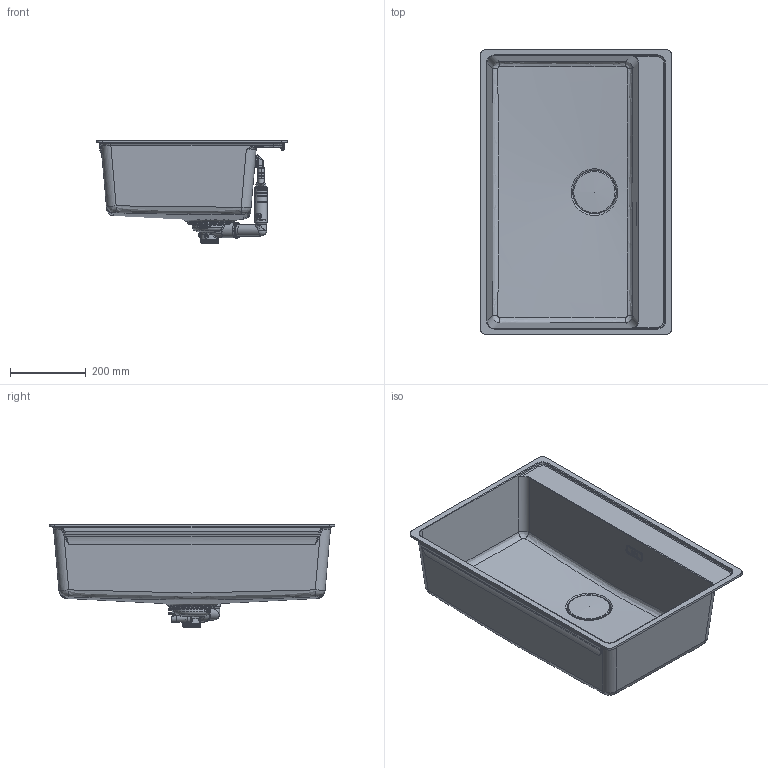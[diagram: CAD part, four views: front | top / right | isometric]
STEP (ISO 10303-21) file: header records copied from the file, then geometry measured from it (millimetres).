
FILE_DESCRIPTION(/* description */ ('UBG 610-78'),/* implementation_level */ '2;1');
FILE_NAME(/* name */ 'C:\Users\PS950\OneDrive - Franke Group\Maris Bowls MRG\Flushmount\MRG 210-72 TL\3D Data\MRG 210-72 TL.stp',/* time_stamp */ '2021-09-29T15:22:22+02:00',/* author */ ('PS950'),/* organization */ (''),/* preprocessor_version */ 'ST-DEVELOPER v18.1',/* originating_system */ 'Autodesk Inventor 2021',/* authorisation */ '');
FILE_SCHEMA (('AUTOMOTIVE_DESIGN { 1 0 10303 214 3 1 1 }'));
Products named in the file (22): 0056-219212; Standard; NEW MARIS_V01; 0056-218666; 0056-202897; 0056-214469; 0056-203246; 0056-213999; 0056-127368; 0056-215850; 0056-215855; 0056-185732; 0056-214454; 0056-214010; 0056-135514; 0056-137629; 0056-142823; 0056-165491; 0056-161093; 0056-216002; 0056-216000; 0056-207145
Assembly tree (24 placements, depth 4):
  0056-219212
    Standard
      NEW MARIS_V01
    0056-218666
      0056-202897
      0056-214469
      0056-203246
        0056-213999
        0056-127368
        0056-215850
        0056-215855
        0056-185732
        0056-214454
        0056-214010
    0056-135514
    0056-137629
    0056-142823
    0056-165491
    0056-161093
    0056-216002
      0056-216000
      0056-207145  x4
Bounding box: 503 x 753 x 271.19 mm (x, y, z)
Volume: 5705075.4 mm3; surface area: 1702371.3 mm2
Topology: 20 solids, 20 shells, 5119 faces, 13595 edges, 8704 vertices
Faces by surface type: plane 2669, bspline 1144, cylinder 669, torus 351, cone 223, sphere 63
Full cylindrical faces by diameter (mm): 3.242 x1, 4 x1, 4.5 x1, 4.7 x1, 4.85 x1, 5.2 x1, 5.25 x1, 5.85 x2, 6 x4, 6.01 x1, 6.2 x1, 8 x2, 8.25 x1, 11.003 x8, 12 x1, 12.5 x9, 12.6 x1, 13.743 x1, 14.3 x1, 16.941 x1, 22 x1, 26 x1, 27 x1, 28 x2, 30 x7, 33 x2, 33.75 x1, 34 x2, 36.5 x1, 39 x2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
Entity records: 183667 total; most frequent: CARTESIAN_POINT 67505, ORIENTED_EDGE 25988, DIRECTION 20637, EDGE_CURVE 12994, VERTEX_POINT 8392, LINE 7603, VECTOR 7603, AXIS2_PLACEMENT_3D 6517
